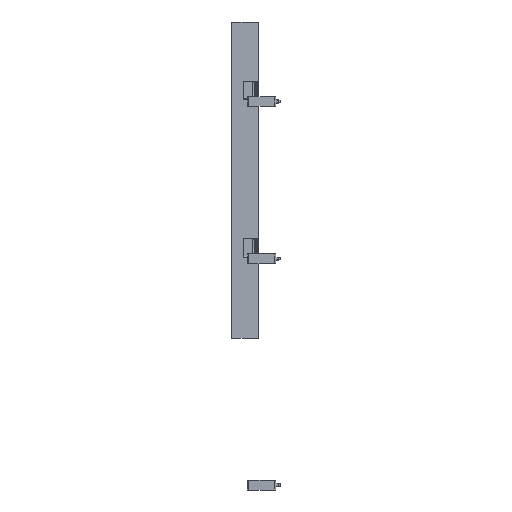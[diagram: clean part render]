
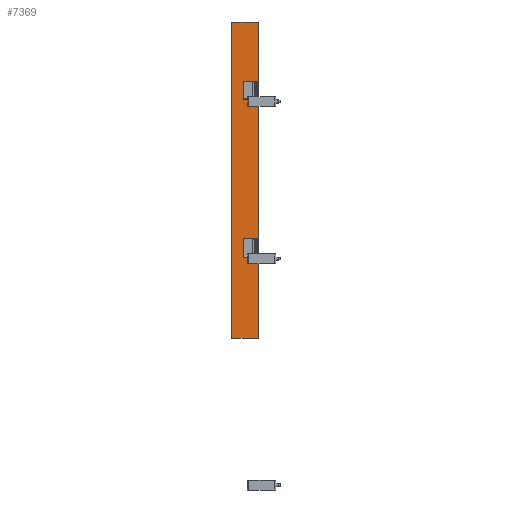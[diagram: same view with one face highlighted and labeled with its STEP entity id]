
A CAD part, left-side view. The second image highlights one B-rep face of the part: STEP entity #7369.
In plain terms, the highlighted planar face has unit normal (-1, 0, 0).
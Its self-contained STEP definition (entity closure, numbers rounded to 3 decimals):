
#1200=ORIENTED_EDGE('',*,*,#3330,.T.);
#1201=ORIENTED_EDGE('',*,*,#3331,.F.);
#1202=ORIENTED_EDGE('',*,*,#3332,.F.);
#1203=ORIENTED_EDGE('',*,*,#3333,.T.);
#1204=ORIENTED_EDGE('',*,*,#3334,.T.);
#1205=ORIENTED_EDGE('',*,*,#3335,.F.);
#1206=ORIENTED_EDGE('',*,*,#3336,.F.);
#1207=ORIENTED_EDGE('',*,*,#3337,.F.);
#1208=ORIENTED_EDGE('',*,*,#3338,.T.);
#1209=ORIENTED_EDGE('',*,*,#3339,.T.);
#1210=ORIENTED_EDGE('',*,*,#3340,.F.);
#1211=ORIENTED_EDGE('',*,*,#3341,.T.);
#3330=EDGE_CURVE('',#4378,#4379,#5085,.T.);
#3331=EDGE_CURVE('',#4380,#4379,#5086,.T.);
#3332=EDGE_CURVE('',#4381,#4380,#5087,.T.);
#3333=EDGE_CURVE('',#4381,#4382,#5088,.T.);
#3334=EDGE_CURVE('',#4382,#4383,#5089,.T.);
#3335=EDGE_CURVE('',#4384,#4383,#5090,.T.);
#3336=EDGE_CURVE('',#4385,#4384,#5091,.T.);
#3337=EDGE_CURVE('',#4386,#4385,#5092,.T.);
#3338=EDGE_CURVE('',#4386,#4387,#5093,.T.);
#3339=EDGE_CURVE('',#4387,#4388,#5094,.T.);
#3340=EDGE_CURVE('',#4389,#4388,#5095,.T.);
#3341=EDGE_CURVE('',#4389,#4378,#5096,.T.);
#4378=VERTEX_POINT('',#11752);
#4379=VERTEX_POINT('',#11753);
#4380=VERTEX_POINT('',#11755);
#4381=VERTEX_POINT('',#11757);
#4382=VERTEX_POINT('',#11759);
#4383=VERTEX_POINT('',#11761);
#4384=VERTEX_POINT('',#11763);
#4385=VERTEX_POINT('',#11765);
#4386=VERTEX_POINT('',#11767);
#4387=VERTEX_POINT('',#11769);
#4388=VERTEX_POINT('',#11771);
#4389=VERTEX_POINT('',#11773);
#5085=LINE('',#11751,#5599);
#5086=LINE('',#11754,#5600);
#5087=LINE('',#11756,#5601);
#5088=LINE('',#11758,#5602);
#5089=LINE('',#11760,#5603);
#5090=LINE('',#11762,#5604);
#5091=LINE('',#11764,#5605);
#5092=LINE('',#11766,#5606);
#5093=LINE('',#11768,#5607);
#5094=LINE('',#11770,#5608);
#5095=LINE('',#11772,#5609);
#5096=LINE('',#11774,#5610);
#5599=VECTOR('',#9340,1000.);
#5600=VECTOR('',#9341,1000.);
#5601=VECTOR('',#9342,1000.);
#5602=VECTOR('',#9343,1000.);
#5603=VECTOR('',#9344,1000.);
#5604=VECTOR('',#9345,1000.);
#5605=VECTOR('',#9346,1000.);
#5606=VECTOR('',#9347,1000.);
#5607=VECTOR('',#9348,1000.);
#5608=VECTOR('',#9349,1000.);
#5609=VECTOR('',#9350,1000.);
#5610=VECTOR('',#9351,1000.);
#6023=EDGE_LOOP('',(#1200,#1201,#1202,#1203,#1204,#1205,#1206,#1207,#1208,
#1209,#1210,#1211));
#6629=FACE_BOUND('',#6023,.T.);
#7206=PLANE('',#8215);
#7369=ADVANCED_FACE('',(#6629),#7206,.F.);
#8215=AXIS2_PLACEMENT_3D('',#11750,#9338,#9339);
#9338=DIRECTION('',(1.,0.,0.));
#9339=DIRECTION('',(0.,1.,0.));
#9340=DIRECTION('',(0.,0.,1.));
#9341=DIRECTION('',(0.,1.,0.));
#9342=DIRECTION('',(0.,0.,-1.));
#9343=DIRECTION('',(0.,1.,0.));
#9344=DIRECTION('',(0.,0.,1.));
#9345=DIRECTION('',(0.,1.,0.));
#9346=DIRECTION('',(0.,0.,-1.));
#9347=DIRECTION('',(0.,-1.,0.));
#9348=DIRECTION('',(0.,0.,-1.));
#9349=DIRECTION('',(0.,-1.,0.));
#9350=DIRECTION('',(0.,0.,-1.));
#9351=DIRECTION('',(0.,1.,0.));
#11750=CARTESIAN_POINT('',(-14.,-7.5,288.5));
#11751=CARTESIAN_POINT('',(-14.,20.,-106.5));
#11752=CARTESIAN_POINT('',(-14.,20.,-140.5));
#11753=CARTESIAN_POINT('',(-14.,20.,-106.5));
#11754=CARTESIAN_POINT('',(-14.,-579.753,-106.5));
#11755=CARTESIAN_POINT('',(-14.,-7.5,-106.5));
#11756=CARTESIAN_POINT('',(-14.,-7.5,288.5));
#11757=CARTESIAN_POINT('',(-14.,-7.5,146.5));
#11758=CARTESIAN_POINT('',(-14.,-579.753,146.5));
#11759=CARTESIAN_POINT('',(-14.,20.,146.5));
#11760=CARTESIAN_POINT('',(-14.,20.,180.5));
#11761=CARTESIAN_POINT('',(-14.,20.,180.5));
#11762=CARTESIAN_POINT('',(-14.,-579.753,180.5));
#11763=CARTESIAN_POINT('',(-14.,-7.5,180.5));
#11764=CARTESIAN_POINT('',(-14.,-7.5,288.5));
#11765=CARTESIAN_POINT('',(-14.,-7.5,288.5));
#11766=CARTESIAN_POINT('',(-14.,-7.5,288.5));
#11767=CARTESIAN_POINT('',(-14.,40.5,288.5));
#11768=CARTESIAN_POINT('',(-14.,40.5,288.5));
#11769=CARTESIAN_POINT('',(-14.,40.5,-288.5));
#11770=CARTESIAN_POINT('',(-14.,-7.5,-288.5));
#11771=CARTESIAN_POINT('',(-14.,-7.5,-288.5));
#11772=CARTESIAN_POINT('',(-14.,-7.5,288.5));
#11773=CARTESIAN_POINT('',(-14.,-7.5,-140.5));
#11774=CARTESIAN_POINT('',(-14.,-579.753,-140.5));
